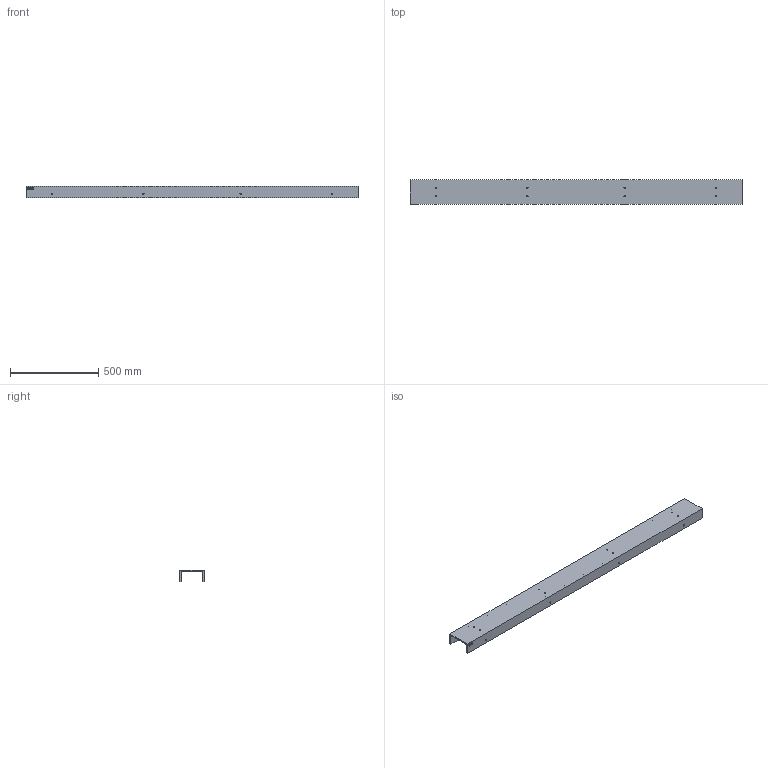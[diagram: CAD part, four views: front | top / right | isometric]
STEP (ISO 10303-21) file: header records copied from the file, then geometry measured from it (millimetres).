
FILE_DESCRIPTION (( 'STEP AP214' ), '1' );
FILE_NAME ('CCJ029-REP.031 - RAIL GUIDAGE SUPERIEUR.STEP', '2025-10-30T12:39:09', ( '' ), ( '' ), 'SwSTEP 2.0', 'SolidWorks 2021', '' );
FILE_SCHEMA (( 'AUTOMOTIVE_DESIGN' ));
Length unit declared in the file: millimetre
Products named in the file (1): CCJ029-REP.031 - RAIL GUIDAGE SUPERIEUR
Bounding box: 1878 x 140 x 65 mm (x, y, z)
Volume: 3454541.2 mm3; surface area: 981002.1 mm2
Topology: 1 solids, 1 shells, 80 faces, 222 edges, 148 vertices
Faces by surface type: cylinder 34, plane 23, bspline 23
Entity records: 4078 total; most frequent: CARTESIAN_POINT 2018, ORIENTED_EDGE 444, DIRECTION 360, EDGE_CURVE 222, VERTEX_POINT 148, AXIS2_PLACEMENT_3D 126, EDGE_LOOP 116, VECTOR 108
